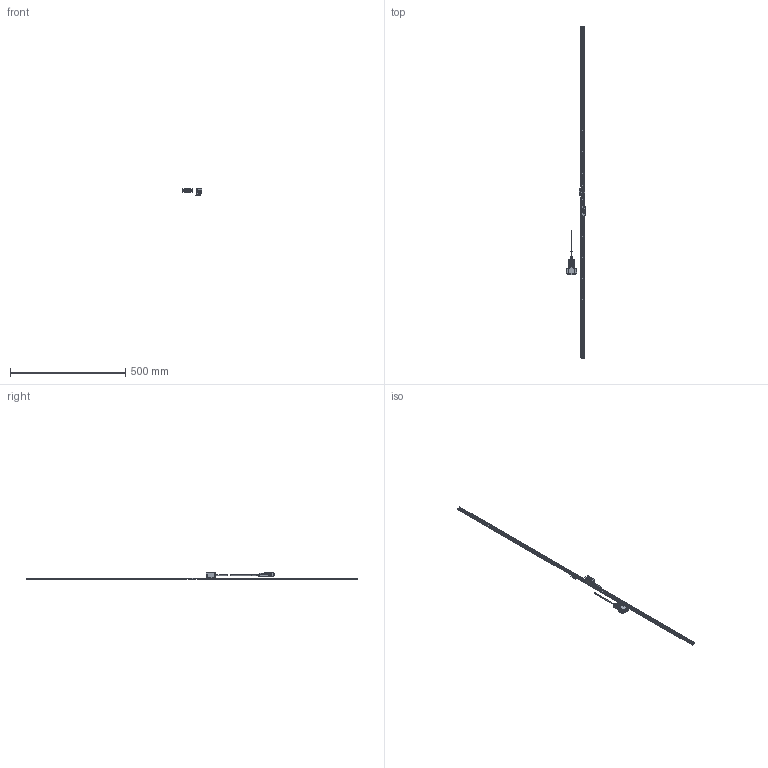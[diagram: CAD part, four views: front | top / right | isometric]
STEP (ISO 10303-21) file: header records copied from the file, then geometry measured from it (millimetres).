
FILE_DESCRIPTION(('Creo Elements/Direct Modeling STEP Export'),'2;1');
FILE_NAME('ST1300-1400F_G.stp','2022-08-16T10:47:51',(''),(''),'Creo Elements/Direct Modeling STEP processor for AP214 (Solid Model)','Creo Elements/Direct Modeling 18.1I 13-Aug-2016 (C) Parametric Technology GmbH','');
FILE_SCHEMA(('AUTOMOTIVE_DESIGN { 1 0 10303 214 1 1 1 1 }'));
Length unit declared in the file: millimetre
Products named in the file (4): Scale_1400; Connector; Detector_Head; ST1300-1400F_G
Assembly tree (3 placements, depth 2):
  ST1300-1400F_G
    Detector_Head
    Connector
    Scale_1400
Bounding box: 83 x 1440 x 30.1 mm (x, y, z)
Volume: 138324.5 mm3; surface area: 84135.9 mm2
Topology: 2 solids, 6 shells, 3585 faces, 9848 edges, 6417 vertices
Faces by surface type: plane 1676, cylinder 1555, extrusion 214, cone 87, torus 26, bspline 23, revolution 4
Entity records: 119331 total; most frequent: CARTESIAN_POINT 27707, ORIENTED_EDGE 19680, DIRECTION 18367, EDGE_CURVE 9836, VERTEX_POINT 6417, AXIS2_PLACEMENT_3D 6163, VECTOR 6035, LINE 5857
